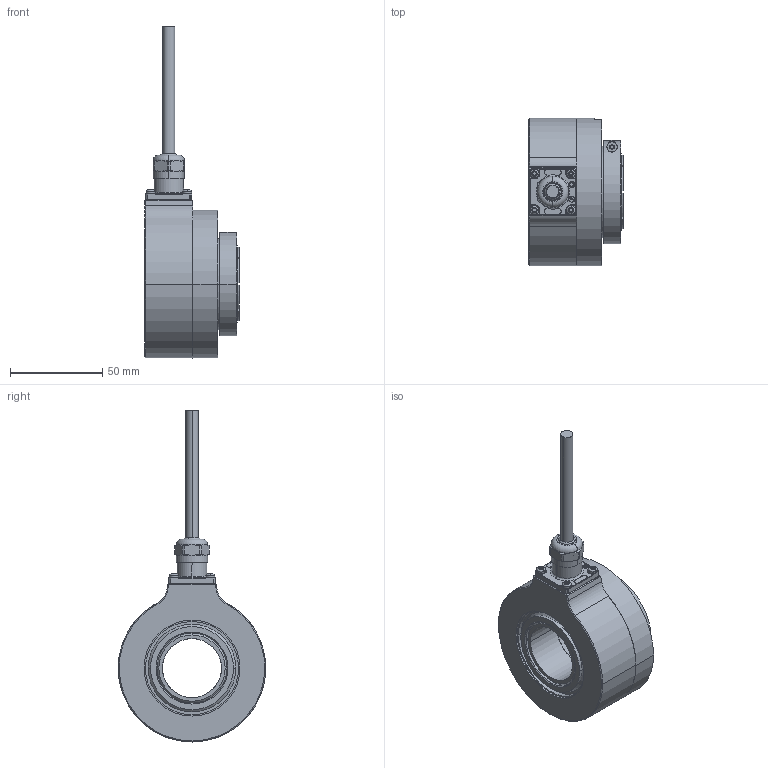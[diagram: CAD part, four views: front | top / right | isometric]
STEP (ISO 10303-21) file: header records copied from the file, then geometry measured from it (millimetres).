
FILE_DESCRIPTION (( 'STEP AP203' ), '1' );
FILE_NAME ('K80I.OXX.XXXXX.XH20832.6XR31.XXXX.step', '2025-12-09T09:41:15', ( '' ), ( '' ), 'SwSTEP 2.0', 'SolidWorks 2021', '' );
FILE_SCHEMA (( 'CONFIG_CONTROL_DESIGN' ));
Length unit declared in the file: millimetre
Products named in the file (1): K80I.OXX.XXXXX.XH20832.6XR31.XXXX
Bounding box: 51.2 x 80.15 x 180.07 mm (x, y, z)
Volume: 194831.4 mm3; surface area: 74489.4 mm2
Topology: 10 solids, 10 shells, 693 faces, 1785 edges, 1129 vertices
Faces by surface type: cylinder 287, plane 239, cone 68, torus 43, bspline 40, sphere 16
Entity records: 23405 total; most frequent: CARTESIAN_POINT 6432, DIRECTION 3616, ORIENTED_EDGE 3554, EDGE_CURVE 1777, AXIS2_PLACEMENT_3D 1397, VERTEX_POINT 1129, LINE 822, VECTOR 822
